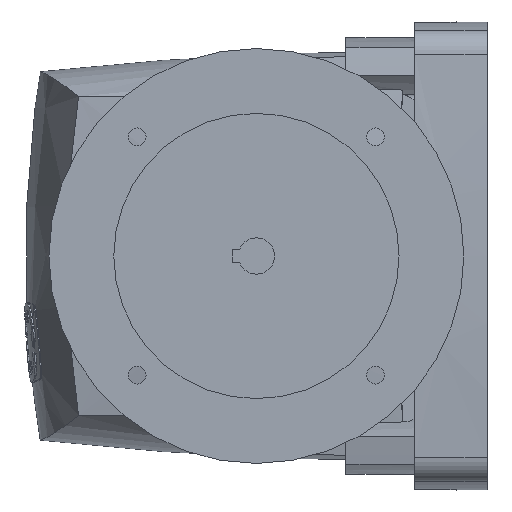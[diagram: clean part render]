
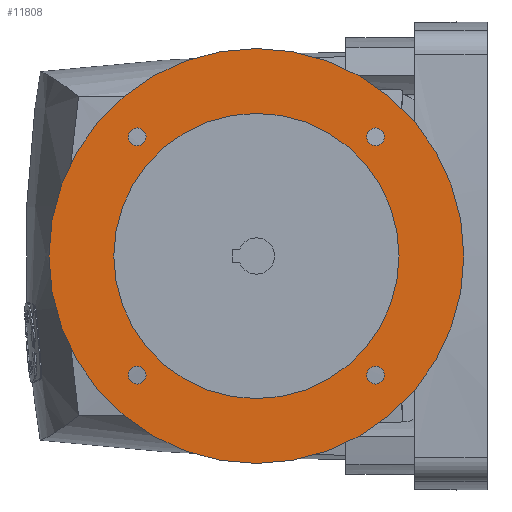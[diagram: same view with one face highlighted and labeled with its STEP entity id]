
A CAD part, left-side view. The second image highlights one B-rep face of the part: STEP entity #11808.
In plain terms, the highlighted planar face has unit normal (-1, 0, 0).
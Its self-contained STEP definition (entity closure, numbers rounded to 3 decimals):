
#2651=CARTESIAN_POINT('',(-123.5,33.038,-45.962));
#2652=DIRECTION('',(1.,0.,0.));
#2653=DIRECTION('',(0.,-1.,0.));
#2654=AXIS2_PLACEMENT_3D('',#2651,#2652,#2653);
#2656=CARTESIAN_POINT('',(-123.5,33.038,-45.962));
#2657=DIRECTION('',(1.,0.,0.));
#2658=DIRECTION('',(0.,1.,0.));
#2659=AXIS2_PLACEMENT_3D('',#2656,#2657,#2658);
#2661=CARTESIAN_POINT('',(-123.5,124.962,-45.962));
#2662=DIRECTION('',(1.,0.,0.));
#2663=DIRECTION('',(0.,-1.,0.));
#2664=AXIS2_PLACEMENT_3D('',#2661,#2662,#2663);
#2666=CARTESIAN_POINT('',(-123.5,124.962,-45.962));
#2667=DIRECTION('',(1.,0.,0.));
#2668=DIRECTION('',(0.,1.,0.));
#2669=AXIS2_PLACEMENT_3D('',#2666,#2667,#2668);
#2671=CARTESIAN_POINT('',(-123.5,33.038,45.962));
#2672=DIRECTION('',(1.,0.,0.));
#2673=DIRECTION('',(0.,-1.,0.));
#2674=AXIS2_PLACEMENT_3D('',#2671,#2672,#2673);
#2676=CARTESIAN_POINT('',(-123.5,33.038,45.962));
#2677=DIRECTION('',(1.,0.,0.));
#2678=DIRECTION('',(0.,1.,0.));
#2679=AXIS2_PLACEMENT_3D('',#2676,#2677,#2678);
#2681=CARTESIAN_POINT('',(-123.5,124.962,45.962));
#2682=DIRECTION('',(1.,0.,0.));
#2683=DIRECTION('',(0.,-1.,0.));
#2684=AXIS2_PLACEMENT_3D('',#2681,#2682,#2683);
#2686=CARTESIAN_POINT('',(-123.5,124.962,45.962));
#2687=DIRECTION('',(1.,0.,0.));
#2688=DIRECTION('',(0.,1.,0.));
#2689=AXIS2_PLACEMENT_3D('',#2686,#2687,#2688);
#2691=CARTESIAN_POINT('',(-123.5,79.,0.));
#2692=DIRECTION('',(1.,0.,0.));
#2693=DIRECTION('',(0.,-1.,0.));
#2694=AXIS2_PLACEMENT_3D('',#2691,#2692,#2693);
#2696=CARTESIAN_POINT('',(-123.5,79.,0.));
#2697=DIRECTION('',(1.,0.,0.));
#2698=DIRECTION('',(0.,1.,0.));
#2699=AXIS2_PLACEMENT_3D('',#2696,#2697,#2698);
#2701=CARTESIAN_POINT('',(-123.5,79.,0.));
#2702=DIRECTION('',(-1.,0.,0.));
#2703=DIRECTION('',(0.,-1.,0.));
#2704=AXIS2_PLACEMENT_3D('',#2701,#2702,#2703);
#2706=CARTESIAN_POINT('',(-123.5,79.,0.));
#2707=DIRECTION('',(-1.,0.,0.));
#2708=DIRECTION('',(0.,1.,0.));
#2709=AXIS2_PLACEMENT_3D('',#2706,#2707,#2708);
#7583=CARTESIAN_POINT('',(-123.5,159.,0.));
#7584=VERTEX_POINT('',#7583);
#7585=CARTESIAN_POINT('',(-123.5,-1.,0.));
#7586=VERTEX_POINT('',#7585);
#7587=CARTESIAN_POINT('',(-123.5,24.,0.));
#7588=CARTESIAN_POINT('',(-123.5,134.,0.));
#7589=VERTEX_POINT('',#7587);
#7590=VERTEX_POINT('',#7588);
#8138=CARTESIAN_POINT('',(-123.5,121.562,45.962));
#8139=CARTESIAN_POINT('',(-123.5,128.362,45.962));
#8140=VERTEX_POINT('',#8138);
#8141=VERTEX_POINT('',#8139);
#8142=CARTESIAN_POINT('',(-123.5,29.638,45.962));
#8143=CARTESIAN_POINT('',(-123.5,36.438,45.962));
#8144=VERTEX_POINT('',#8142);
#8145=VERTEX_POINT('',#8143);
#8146=CARTESIAN_POINT('',(-123.5,121.562,-45.962));
#8147=CARTESIAN_POINT('',(-123.5,128.362,-45.962));
#8148=VERTEX_POINT('',#8146);
#8149=VERTEX_POINT('',#8147);
#8150=CARTESIAN_POINT('',(-123.5,29.638,-45.962));
#8151=CARTESIAN_POINT('',(-123.5,36.438,-45.962));
#8152=VERTEX_POINT('',#8150);
#8153=VERTEX_POINT('',#8151);
#11768=CARTESIAN_POINT('',(-123.5,79.,0.));
#11769=DIRECTION('',(1.,0.,0.));
#11770=DIRECTION('',(0.,-1.,0.));
#11771=AXIS2_PLACEMENT_3D('',#11768,#11769,#11770);
#11772=PLANE('',#11771);
#11774=ORIENTED_EDGE('',*,*,#11773,.T.);
#11776=ORIENTED_EDGE('',*,*,#11775,.T.);
#11777=EDGE_LOOP('',(#11774,#11776));
#11778=FACE_OUTER_BOUND('',#11777,.F.);
#11779=ORIENTED_EDGE('',*,*,#11758,.F.);
#11781=ORIENTED_EDGE('',*,*,#11780,.F.);
#11782=EDGE_LOOP('',(#11779,#11781));
#11783=FACE_BOUND('',#11782,.F.);
#11785=ORIENTED_EDGE('',*,*,#11784,.F.);
#11787=ORIENTED_EDGE('',*,*,#11786,.F.);
#11788=EDGE_LOOP('',(#11785,#11787));
#11789=FACE_BOUND('',#11788,.F.);
#11791=ORIENTED_EDGE('',*,*,#11790,.F.);
#11793=ORIENTED_EDGE('',*,*,#11792,.F.);
#11794=EDGE_LOOP('',(#11791,#11793));
#11795=FACE_BOUND('',#11794,.F.);
#11797=ORIENTED_EDGE('',*,*,#11796,.F.);
#11799=ORIENTED_EDGE('',*,*,#11798,.F.);
#11800=EDGE_LOOP('',(#11797,#11799));
#11801=FACE_BOUND('',#11800,.F.);
#11803=ORIENTED_EDGE('',*,*,#11802,.T.);
#11805=ORIENTED_EDGE('',*,*,#11804,.T.);
#11806=EDGE_LOOP('',(#11803,#11805));
#11807=FACE_BOUND('',#11806,.F.);
#11808=ADVANCED_FACE('',(#11778,#11783,#11789,#11795,#11801,#11807),#11772,.F.);
#2655=CIRCLE('',#2654,3.4);
#2660=CIRCLE('',#2659,3.4);
#2665=CIRCLE('',#2664,3.4);
#2670=CIRCLE('',#2669,3.4);
#2675=CIRCLE('',#2674,3.4);
#2680=CIRCLE('',#2679,3.4);
#2685=CIRCLE('',#2684,3.4);
#2690=CIRCLE('',#2689,3.4);
#2695=CIRCLE('',#2694,80.);
#2700=CIRCLE('',#2699,80.);
#2705=CIRCLE('',#2704,55.);
#2710=CIRCLE('',#2709,55.);
#11758=EDGE_CURVE('',#8152,#8153,#2655,.T.);
#11773=EDGE_CURVE('',#7586,#7584,#2695,.T.);
#11775=EDGE_CURVE('',#7584,#7586,#2700,.T.);
#11780=EDGE_CURVE('',#8153,#8152,#2660,.T.);
#11784=EDGE_CURVE('',#8148,#8149,#2665,.T.);
#11786=EDGE_CURVE('',#8149,#8148,#2670,.T.);
#11790=EDGE_CURVE('',#8144,#8145,#2675,.T.);
#11792=EDGE_CURVE('',#8145,#8144,#2680,.T.);
#11796=EDGE_CURVE('',#8140,#8141,#2685,.T.);
#11798=EDGE_CURVE('',#8141,#8140,#2690,.T.);
#11802=EDGE_CURVE('',#7589,#7590,#2705,.T.);
#11804=EDGE_CURVE('',#7590,#7589,#2710,.T.);
